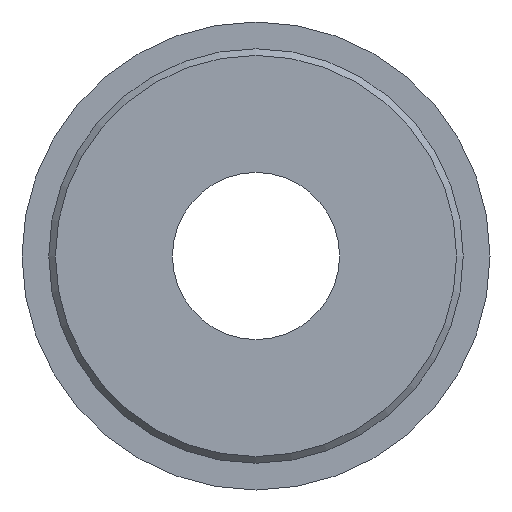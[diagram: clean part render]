
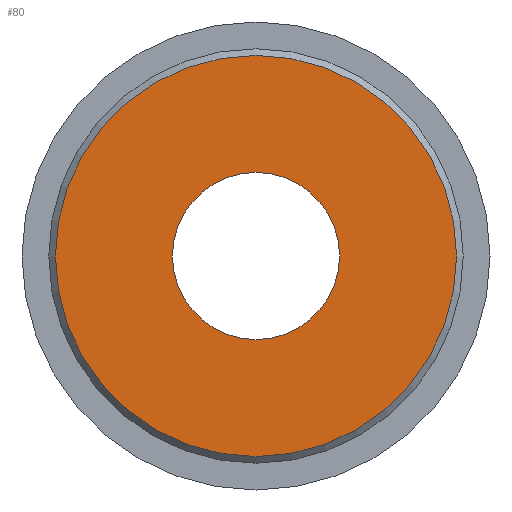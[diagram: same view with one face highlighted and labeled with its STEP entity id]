
A CAD part, front view. The second image highlights one B-rep face of the part: STEP entity #80.
In plain terms, the highlighted planar face has unit normal (0, -1, 0).
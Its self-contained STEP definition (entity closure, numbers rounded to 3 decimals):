
#80 = ADVANCED_FACE( '', ( #102, #103 ), #104, .T. );
#102 = FACE_OUTER_BOUND( '', #135, .T. );
#103 = FACE_BOUND( '', #136, .T. );
#104 = PLANE( '', #137 );
#135 = EDGE_LOOP( '', ( #178 ) );
#136 = EDGE_LOOP( '', ( #179 ) );
#137 = AXIS2_PLACEMENT_3D( '', #180, #181, #182 );
#178 = ORIENTED_EDGE( '', *, *, #214, .T. );
#179 = ORIENTED_EDGE( '', *, *, #213, .F. );
#180 = CARTESIAN_POINT( '', ( 5., 0., 0. ) );
#181 = DIRECTION( '', ( 0., -1., 0. ) );
#182 = DIRECTION( '', ( 0., 0., -1. ) );
#213 = EDGE_CURVE( '', #229, #229, #230, .T. );
#214 = EDGE_CURVE( '', #231, #231, #232, .T. );
#229 = VERTEX_POINT( '', #251 );
#230 = CIRCLE( '', #252, 5. );
#231 = VERTEX_POINT( '', #253 );
#232 = CIRCLE( '', #254, 12. );
#251 = CARTESIAN_POINT( '', ( 0., 0., -5. ) );
#252 = AXIS2_PLACEMENT_3D( '', #278, #279, #280 );
#253 = CARTESIAN_POINT( '', ( 0., 0., -12. ) );
#254 = AXIS2_PLACEMENT_3D( '', #281, #282, #283 );
#278 = CARTESIAN_POINT( '', ( 0., 0., 0. ) );
#279 = DIRECTION( '', ( 0., -1., 0. ) );
#280 = DIRECTION( '', ( 0., 0., -1. ) );
#281 = CARTESIAN_POINT( '', ( 0., 0., 0. ) );
#282 = DIRECTION( '', ( 0., -1., 0. ) );
#283 = DIRECTION( '', ( 0., 0., -1. ) );
